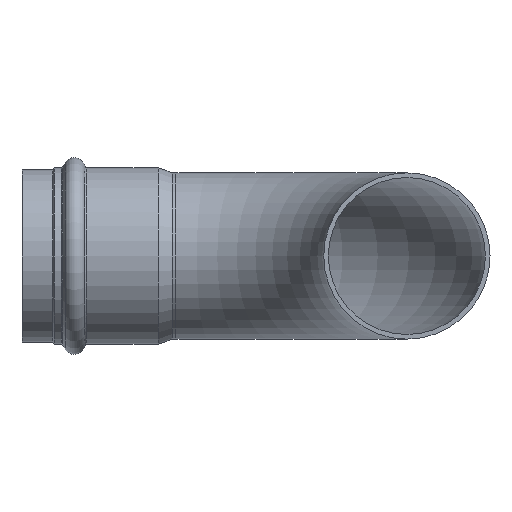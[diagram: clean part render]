
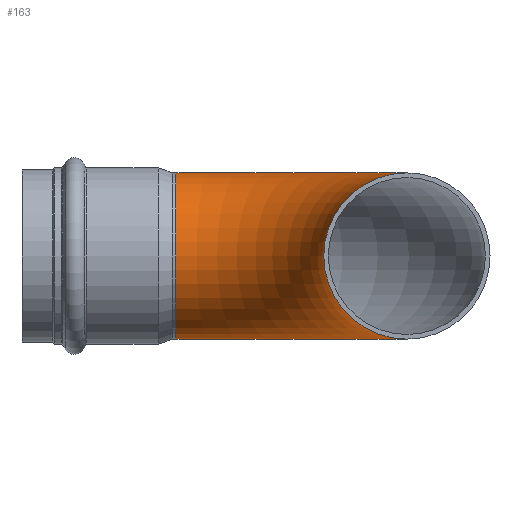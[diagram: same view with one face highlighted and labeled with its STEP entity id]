
A CAD part, front view. The second image highlights one B-rep face of the part: STEP entity #163.
In plain terms, the highlighted toroidal (fillet/blend) face has major radius 75 mm and minor radius 27 mm.
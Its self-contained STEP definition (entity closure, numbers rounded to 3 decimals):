
#132=CARTESIAN_POINT('',(75.,0.,-27.));
#133=VERTEX_POINT('',#132);
#134=CARTESIAN_POINT('',(75.,0.,0.0));
#135=DIRECTION('',(0.0,1.0,0.0));
#136=DIRECTION('',(0.0,0.0,1.0));
#137=AXIS2_PLACEMENT_3D('',#134,#135,#136);
#138=CIRCLE('',#137,27.);
#139=EDGE_CURVE('',#133,#133,#138,.T.);
#144=CARTESIAN_POINT('',(0.,0.,0.0));
#145=DIRECTION('',(0.0,0.0,-1.0));
#146=DIRECTION('',(-1.0,0.0,0.0));
#147=AXIS2_PLACEMENT_3D('',#144,#145,#146);
#148=TOROIDAL_SURFACE('',#147,75.0,27.);
#149=ORIENTED_EDGE('',*,*,#139,.T.);
#150=EDGE_LOOP('',(#149));
#151=FACE_OUTER_BOUND('',#150,.T.);
#152=CARTESIAN_POINT('',(0.,75.,-27.));
#153=VERTEX_POINT('',#152);
#154=CARTESIAN_POINT('',(0.,75.,0.0));
#155=DIRECTION('',(-1.0,0.0,0.0));
#156=DIRECTION('',(0.0,0.0,1.0));
#157=AXIS2_PLACEMENT_3D('',#154,#155,#156);
#158=CIRCLE('',#157,27.);
#159=EDGE_CURVE('',#153,#153,#158,.T.);
#160=ORIENTED_EDGE('',*,*,#159,.F.);
#161=EDGE_LOOP('',(#160));
#162=FACE_BOUND('',#161,.T.);
#163=ADVANCED_FACE('',(#151,#162),#148,.T.);
